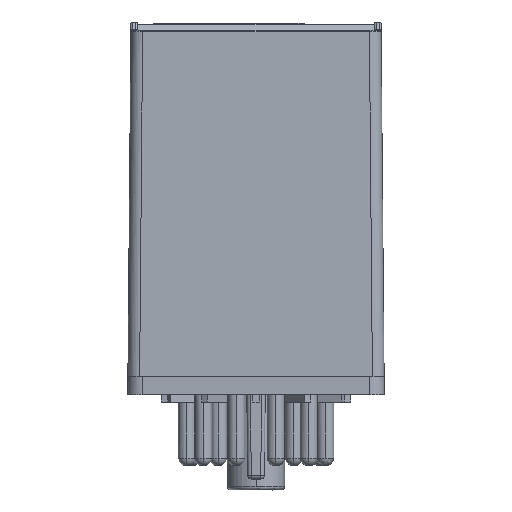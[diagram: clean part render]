
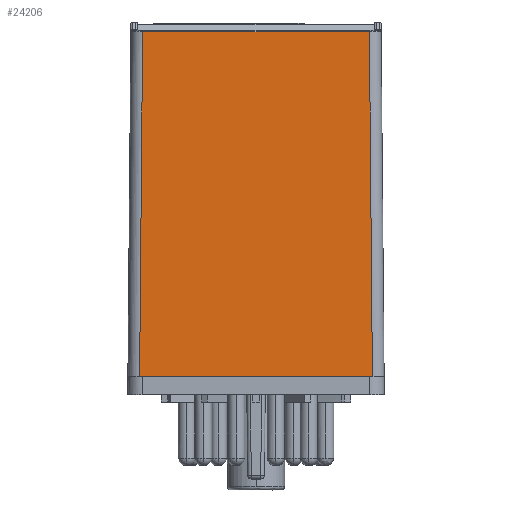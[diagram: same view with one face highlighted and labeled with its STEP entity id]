
A CAD part, front view. The second image highlights one B-rep face of the part: STEP entity #24206.
In plain terms, the highlighted planar face has unit normal (0, -1, 0.009).
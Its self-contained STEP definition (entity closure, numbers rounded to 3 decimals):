
#1288 = LINE ( 'NONE', #11117, #37134 ) ;
#1484 = CARTESIAN_POINT ( 'NONE',  ( 1.709, 0.021, 15.5 ) ) ;
#1703 = DIRECTION ( 'NONE',  ( 1., 0., 0. ) ) ;
#1866 = LINE ( 'NONE', #27278, #12344 ) ;
#3249 = DIRECTION ( 'NONE',  ( 0., -1., 0.009 ) ) ;
#4616 = B_SPLINE_CURVE_WITH_KNOTS ( 'NONE', 3,
 ( #16383, #39075, #6529, #7146 ),
 .UNSPECIFIED., .F., .F.,
 ( 4, 4 ),
 ( 0., 1. ),
 .UNSPECIFIED. ) ;
#5325 = VERTEX_POINT ( 'NONE', #19923 ) ;
#6033 = VERTEX_POINT ( 'NONE', #26156 ) ;
#6142 = EDGE_CURVE ( 'NONE', #37857, #15948, #12027, .T. ) ;
#6169 = CARTESIAN_POINT ( 'NONE',  ( 33.379, 0.021, 15.5 ) ) ;
#6392 = EDGE_CURVE ( 'NONE', #10503, #11031, #34689, .T. ) ;
#6529 = CARTESIAN_POINT ( 'NONE',  ( 33.29, 0.021, 15.5 ) ) ;
#7146 = CARTESIAN_POINT ( 'NONE',  ( 33.29, 0.021, 15.5 ) ) ;
#7291 = ORIENTED_EDGE ( 'NONE', *, *, #10327, .T. ) ;
#8696 = VECTOR ( 'NONE', #34466, 1000. ) ;
#9845 = CARTESIAN_POINT ( 'NONE',  ( 1.621, 0.021, 15.5 ) ) ;
#10327 = EDGE_CURVE ( 'NONE', #6033, #37857, #1288, .T. ) ;
#10503 = VERTEX_POINT ( 'NONE', #9845 ) ;
#10806 = DIRECTION ( 'NONE',  ( -1., 0., 0. ) ) ;
#11031 = VERTEX_POINT ( 'NONE', #19525 ) ;
#11117 = CARTESIAN_POINT ( 'NONE',  ( 0., 0.021, 15.5 ) ) ;
#12027 = LINE ( 'NONE', #6169, #32664 ) ;
#12344 = VECTOR ( 'NONE', #23922, 1000. ) ;
#12368 = CARTESIAN_POINT ( 'NONE',  ( 1.711, 0.021, 15.5 ) ) ;
#13887 = EDGE_LOOP ( 'NONE', ( #22944, #21652, #37094, #40301, #27388, #29079, #22763, #7291 ) ) ;
#14591 = LINE ( 'NONE', #30295, #15158 ) ;
#15158 = VECTOR ( 'NONE', #10806, 1000. ) ;
#15656 = FACE_OUTER_BOUND ( 'NONE', #13887, .T. ) ;
#15882 = B_SPLINE_CURVE_WITH_KNOTS ( 'NONE', 3,
 ( #1484, #24777, #36734, #33985 ),
 .UNSPECIFIED., .F., .F.,
 ( 4, 4 ),
 ( 0., 1. ),
 .UNSPECIFIED. ) ;
#15948 = VERTEX_POINT ( 'NONE', #29518 ) ;
#16383 = CARTESIAN_POINT ( 'NONE',  ( 33.289, 0.021, 15.5 ) ) ;
#17431 = EDGE_CURVE ( 'NONE', #11031, #23725, #15882, .T. ) ;
#18739 = CARTESIAN_POINT ( 'NONE',  ( -0.851, 0.021, 15.5 ) ) ;
#18745 = DIRECTION ( 'NONE',  ( 1., 0., 0. ) ) ;
#19525 = CARTESIAN_POINT ( 'NONE',  ( 1.709, 0.021, 15.5 ) ) ;
#19923 = CARTESIAN_POINT ( 'NONE',  ( 33.289, 0.021, 15.5 ) ) ;
#20869 = CARTESIAN_POINT ( 'NONE',  ( 2.031, 0.431, 62.502 ) ) ;
#21466 = CARTESIAN_POINT ( 'NONE',  ( 33.379, 0.021, 15.5 ) ) ;
#21652 = ORIENTED_EDGE ( 'NONE', *, *, #40742, .T. ) ;
#21928 = VERTEX_POINT ( 'NONE', #20869 ) ;
#22763 = ORIENTED_EDGE ( 'NONE', *, *, #34542, .T. ) ;
#22944 = ORIENTED_EDGE ( 'NONE', *, *, #6142, .T. ) ;
#23725 = VERTEX_POINT ( 'NONE', #12368 ) ;
#23922 = DIRECTION ( 'NONE',  ( 0.009, 0.009, 1. ) ) ;
#24206 = ADVANCED_FACE ( 'NONE', ( #15656 ), #32215, .T. ) ;
#24777 = CARTESIAN_POINT ( 'NONE',  ( 1.71, 0.021, 15.5 ) ) ;
#25334 = CARTESIAN_POINT ( 'NONE',  ( -0.851, 0., 13.1 ) ) ;
#25361 = EDGE_CURVE ( 'NONE', #5325, #23725, #26008, .T. ) ;
#26008 = LINE ( 'NONE', #18739, #8696 ) ;
#26156 = CARTESIAN_POINT ( 'NONE',  ( 33.29, 0.021, 15.5 ) ) ;
#27278 = CARTESIAN_POINT ( 'NONE',  ( 2.031, 0.431, 62.502 ) ) ;
#27388 = ORIENTED_EDGE ( 'NONE', *, *, #17431, .T. ) ;
#27677 = AXIS2_PLACEMENT_3D ( 'NONE', #25334, #3249, #41131 ) ;
#28101 = EDGE_CURVE ( 'NONE', #10503, #21928, #1866, .T. ) ;
#28598 = VECTOR ( 'NONE', #18745, 1000. ) ;
#29079 = ORIENTED_EDGE ( 'NONE', *, *, #25361, .F. ) ;
#29518 = CARTESIAN_POINT ( 'NONE',  ( 32.969, 0.431, 62.502 ) ) ;
#30295 = CARTESIAN_POINT ( 'NONE',  ( -0.851, 0.431, 62.502 ) ) ;
#32215 = PLANE ( 'NONE',  #27677 ) ;
#32664 = VECTOR ( 'NONE', #34316, 1000. ) ;
#33985 = CARTESIAN_POINT ( 'NONE',  ( 1.711, 0.021, 15.5 ) ) ;
#34051 = CARTESIAN_POINT ( 'NONE',  ( 0., 0.021, 15.5 ) ) ;
#34316 = DIRECTION ( 'NONE',  ( -0.009, 0.009, 1. ) ) ;
#34466 = DIRECTION ( 'NONE',  ( -1., 0., 0. ) ) ;
#34542 = EDGE_CURVE ( 'NONE', #5325, #6033, #4616, .T. ) ;
#34689 = LINE ( 'NONE', #34051, #28598 ) ;
#36734 = CARTESIAN_POINT ( 'NONE',  ( 1.71, 0.021, 15.5 ) ) ;
#37094 = ORIENTED_EDGE ( 'NONE', *, *, #28101, .F. ) ;
#37134 = VECTOR ( 'NONE', #1703, 1000. ) ;
#37857 = VERTEX_POINT ( 'NONE', #21466 ) ;
#39075 = CARTESIAN_POINT ( 'NONE',  ( 33.29, 0.021, 15.5 ) ) ;
#40301 = ORIENTED_EDGE ( 'NONE', *, *, #6392, .T. ) ;
#40742 = EDGE_CURVE ( 'NONE', #15948, #21928, #14591, .T. ) ;
#41131 = DIRECTION ( 'NONE',  ( 0., 0.009, 1. ) ) ;
